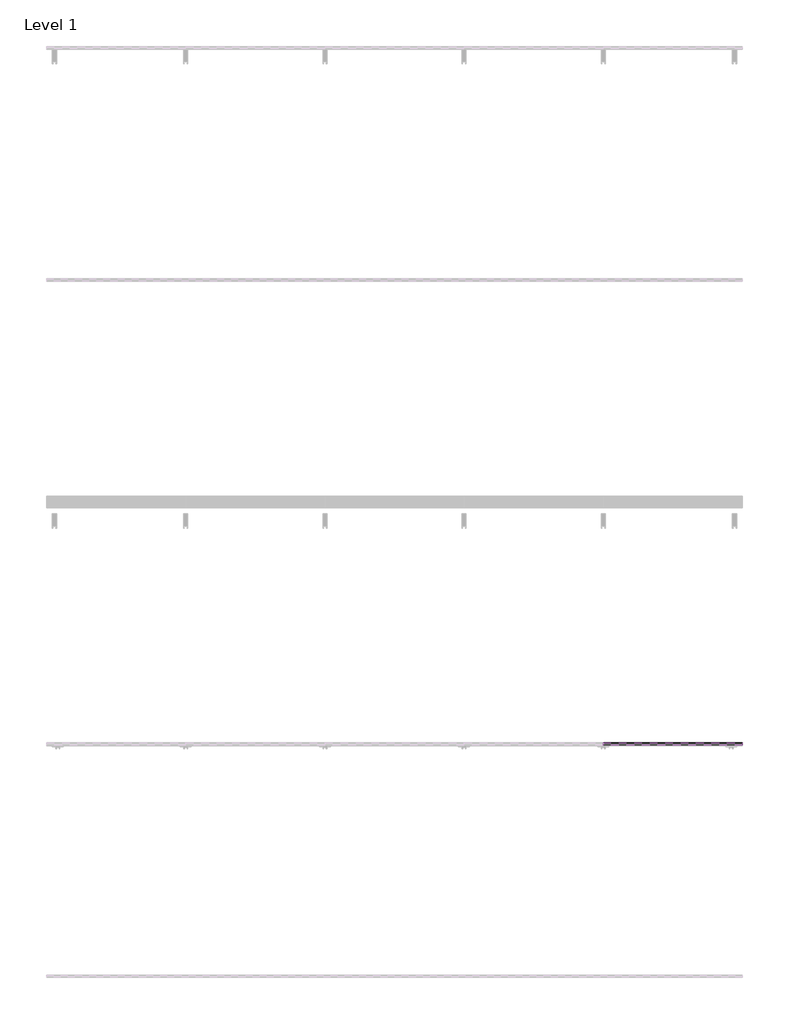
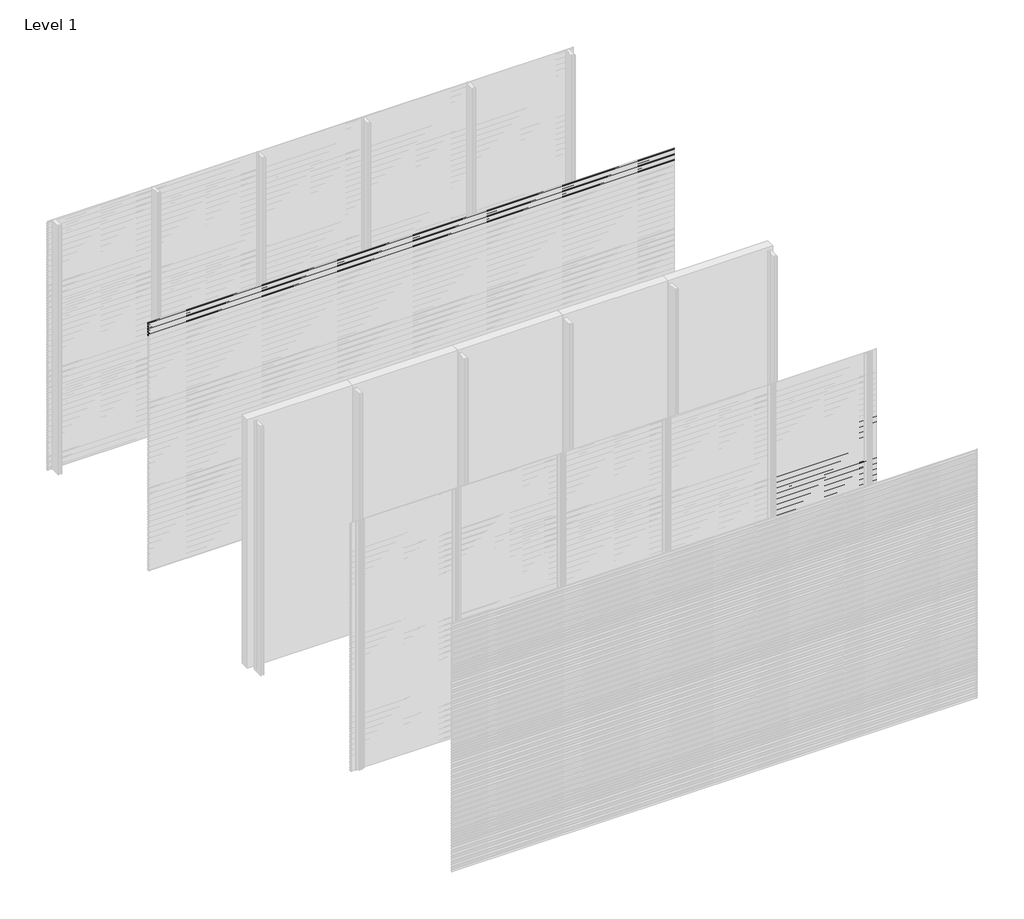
# One storey, part 10 of 77: 72 proxies.
"""IFC4 building model written with IfcOpenShell, lengths in millimetres."""

from ifc_helpers import new_model, si_unit, frame, origin, place, context, project, spatial, polyline, outline, extrude, element, save

model = new_model("IFC4")

# Units and contexts
model_context = context("Model", 3, world=origin())
ifc_project = project(units=[si_unit("LENGTHUNIT", "METRE", prefix="MILLI")], contexts=[model_context])

# Site, building, storey
site = spatial("IfcSite", under=ifc_project)
building = spatial("IfcBuilding", under=site)
storey = spatial("IfcBuildingStorey", under=building, Name="Level 1", Elevation=0.0)

# Proxies
placement = place(None, origin())
element("IfcBuildingElementProxy", 1, Name="Wall Sweeps", at=placement, inside=storey, context=model_context, shape_type="SweptSolid", body=[
    extrude(outline(polyline([(-49978.6, 2972.5359887), (-49998.0, 2983.7366691), (-49998.0, 2997.0), (-49997.0, 2997.0), (-49997.0, 2984.3191057), (-49977.6, 2973.1185105), (-49977.6, 2959.5185105), (-49978.6, 2961.0953129), (-49978.6, 2966.9032062), (-49995.9773817, 2958.8), (-49996.4, 2959.7063078), (-49978.6, 2968.0065841), (-49978.6, 2972.5359887)])), frame((0.0, 0.0, 0.0), z_axis=(1.0, 0.0, 0.0), x_axis=(0.0, 1.0, 0.0)), (0.0, 0.0, 1.0), 6000.0),
])
element("IfcBuildingElementProxy", 2, Name="Wall Sweeps", at=placement, inside=storey, context=model_context, shape_type="SweptSolid", body=[
    extrude(outline(polyline([(-49978.6, 2939.2359887), (-49998.0, 2950.4366691), (-49998.0, 2963.7), (-49997.0, 2963.7), (-49997.0, 2951.0191057), (-49977.6, 2939.8185105), (-49977.6, 2926.2185105), (-49978.6, 2927.7953129), (-49978.6, 2933.6032062), (-49995.9773817, 2925.5), (-49996.4, 2926.4063078), (-49978.6, 2934.7065841), (-49978.6, 2939.2359887)])), frame((0.0, 0.0, 0.0), z_axis=(1.0, 0.0, 0.0), x_axis=(0.0, 1.0, 0.0)), (0.0, 0.0, 1.0), 6000.0),
])
element("IfcBuildingElementProxy", 3, Name="Wall Sweeps", at=placement, inside=storey, context=model_context, shape_type="SweptSolid", body=[
    extrude(outline(polyline([(-49978.6, 2905.9359887), (-49998.0, 2917.1366691), (-49998.0, 2930.4), (-49997.0, 2930.4), (-49997.0, 2917.7191057), (-49977.6, 2906.5185105), (-49977.6, 2892.9185105), (-49978.6, 2894.4953129), (-49978.6, 2900.3032062), (-49995.9773817, 2892.2), (-49996.4, 2893.1063078), (-49978.6, 2901.4065841), (-49978.6, 2905.9359887)])), frame((0.0, 0.0, 0.0), z_axis=(1.0, 0.0, 0.0), x_axis=(0.0, 1.0, 0.0)), (0.0, 0.0, 1.0), 6000.0),
])
element("IfcBuildingElementProxy", 4, Name="Wall Sweeps", at=placement, inside=storey, context=model_context, shape_type="SweptSolid", body=[
    extrude(outline(polyline([(-49978.6, 2872.6359887), (-49998.0, 2883.8366691), (-49998.0, 2897.1), (-49997.0, 2897.1), (-49997.0, 2884.4191057), (-49977.6, 2873.2185105), (-49977.6, 2859.6185105), (-49978.6, 2861.1953129), (-49978.6, 2867.0032062), (-49995.9773817, 2858.9), (-49996.4, 2859.8063078), (-49978.6, 2868.1065841), (-49978.6, 2872.6359887)])), frame((0.0, 0.0, 0.0), z_axis=(1.0, 0.0, 0.0), x_axis=(0.0, 1.0, 0.0)), (0.0, 0.0, 1.0), 6000.0),
])
element("IfcBuildingElementProxy", 5, Name="Wall Sweeps", at=placement, inside=storey, context=model_context, shape_type="SweptSolid", body=[
    extrude(outline(polyline([(-49978.6, 2839.3359887), (-49998.0, 2850.5366691), (-49998.0, 2863.8), (-49997.0, 2863.8), (-49997.0, 2851.1191057), (-49977.6, 2839.9185105), (-49977.6, 2826.3185105), (-49978.6, 2827.8953129), (-49978.6, 2833.7032062), (-49995.9773817, 2825.6), (-49996.4, 2826.5063078), (-49978.6, 2834.8065841), (-49978.6, 2839.3359887)])), frame((0.0, 0.0, 0.0), z_axis=(1.0, 0.0, 0.0), x_axis=(0.0, 1.0, 0.0)), (0.0, 0.0, 1.0), 6000.0),
])
element("IfcBuildingElementProxy", 6, Name="Wall Sweeps", at=placement, inside=storey, context=model_context, shape_type="SweptSolid", body=[
    extrude(outline(polyline([(-53978.6, 2206.6359887), (-53998.0, 2217.8366691), (-53998.0, 2231.1), (-53997.0, 2231.1), (-53997.0, 2218.4191057), (-53977.6, 2207.2185105), (-53977.6, 2193.6185105), (-53978.6, 2195.1953129), (-53978.6, 2201.0032062), (-53995.9773817, 2192.9), (-53996.4, 2193.8063078), (-53978.6, 2202.1065841), (-53978.6, 2206.6359887)])), frame((4800.0, 0.0, 0.0), z_axis=(1.0, 0.0, 0.0), x_axis=(0.0, 1.0, 0.0)), (0.0, 0.0, 1.0), 1200.0),
])
element("IfcBuildingElementProxy", 7, Name="Wall Sweeps", at=placement, inside=storey, context=model_context, shape_type="SweptSolid", body=[
    extrude(outline(polyline([(-53978.6, 2173.3359887), (-53998.0, 2184.5366691), (-53998.0, 2197.8), (-53997.0, 2197.8), (-53997.0, 2185.1191057), (-53977.6, 2173.9185105), (-53977.6, 2160.3185105), (-53978.6, 2161.8953129), (-53978.6, 2167.7032062), (-53995.9773817, 2159.6), (-53996.4, 2160.5063078), (-53978.6, 2168.8065841), (-53978.6, 2173.3359887)])), frame((4800.0, 0.0, 0.0), z_axis=(1.0, 0.0, 0.0), x_axis=(0.0, 1.0, 0.0)), (0.0, 0.0, 1.0), 1200.0),
])
element("IfcBuildingElementProxy", 8, Name="Wall Sweeps", at=placement, inside=storey, context=model_context, shape_type="SweptSolid", body=[
    extrude(outline(polyline([(-53978.6, 2140.0359887), (-53998.0, 2151.2366691), (-53998.0, 2164.5), (-53997.0, 2164.5), (-53997.0, 2151.8191057), (-53977.6, 2140.6185105), (-53977.6, 2127.0185105), (-53978.6, 2128.5953129), (-53978.6, 2134.4032062), (-53995.9773817, 2126.3), (-53996.4, 2127.2063078), (-53978.6, 2135.5065841), (-53978.6, 2140.0359887)])), frame((4800.0, 0.0, 0.0), z_axis=(1.0, 0.0, 0.0), x_axis=(0.0, 1.0, 0.0)), (0.0, 0.0, 1.0), 1200.0),
])
element("IfcBuildingElementProxy", 9, Name="Wall Sweeps", at=placement, inside=storey, context=model_context, shape_type="SweptSolid", body=[
    extrude(outline(polyline([(-53978.6, 2106.7359887), (-53998.0, 2117.9366691), (-53998.0, 2131.2), (-53997.0, 2131.2), (-53997.0, 2118.5191057), (-53977.6, 2107.3185105), (-53977.6, 2093.7185105), (-53978.6, 2095.2953129), (-53978.6, 2101.1032062), (-53995.9773817, 2093.0), (-53996.4, 2093.9063078), (-53978.6, 2102.2065841), (-53978.6, 2106.7359887)])), frame((4800.0, 0.0, 0.0), z_axis=(1.0, 0.0, 0.0), x_axis=(0.0, 1.0, 0.0)), (0.0, 0.0, 1.0), 1200.0),
])
element("IfcBuildingElementProxy", 10, Name="Wall Sweeps", at=placement, inside=storey, context=model_context, shape_type="SweptSolid", body=[
    extrude(outline(polyline([(-53978.6, 2073.4359887), (-53998.0, 2084.6366691), (-53998.0, 2097.9), (-53997.0, 2097.9), (-53997.0, 2085.2191057), (-53977.6, 2074.0185105), (-53977.6, 2060.4185105), (-53978.6, 2061.9953129), (-53978.6, 2067.8032062), (-53995.9773817, 2059.7), (-53996.4, 2060.6063078), (-53978.6, 2068.9065841), (-53978.6, 2073.4359887)])), frame((4800.0, 0.0, 0.0), z_axis=(1.0, 0.0, 0.0), x_axis=(0.0, 1.0, 0.0)), (0.0, 0.0, 1.0), 1200.0),
])
element("IfcBuildingElementProxy", 11, Name="Wall Sweeps", at=placement, inside=storey, context=model_context, shape_type="SweptSolid", body=[
    extrude(outline(polyline([(-53978.6, 2040.1359887), (-53998.0, 2051.3366691), (-53998.0, 2064.6), (-53997.0, 2064.6), (-53997.0, 2051.9191057), (-53977.6, 2040.7185105), (-53977.6, 2027.1185105), (-53978.6, 2028.6953129), (-53978.6, 2034.5032062), (-53995.9773817, 2026.4), (-53996.4, 2027.3063078), (-53978.6, 2035.6065841), (-53978.6, 2040.1359887)])), frame((4800.0, 0.0, 0.0), z_axis=(1.0, 0.0, 0.0), x_axis=(0.0, 1.0, 0.0)), (0.0, 0.0, 1.0), 1200.0),
])
element("IfcBuildingElementProxy", 12, Name="Wall Sweeps", at=placement, inside=storey, context=model_context, shape_type="SweptSolid", body=[
    extrude(outline(polyline([(-53978.6, 2006.8359887), (-53998.0, 2018.0366691), (-53998.0, 2031.3), (-53997.0, 2031.3), (-53997.0, 2018.6191057), (-53977.6, 2007.4185105), (-53977.6, 1993.8185105), (-53978.6, 1995.3953129), (-53978.6, 2001.2032062), (-53995.9773817, 1993.1), (-53996.4, 1994.0063078), (-53978.6, 2002.3065841), (-53978.6, 2006.8359887)])), frame((4800.0, 0.0, 0.0), z_axis=(1.0, 0.0, 0.0), x_axis=(0.0, 1.0, 0.0)), (0.0, 0.0, 1.0), 1200.0),
])
element("IfcBuildingElementProxy", 13, Name="Wall Sweeps", at=placement, inside=storey, context=model_context, shape_type="SweptSolid", body=[
    extrude(outline(polyline([(-53978.6, 1973.5359887), (-53998.0, 1984.7366691), (-53998.0, 1998.0), (-53997.0, 1998.0), (-53997.0, 1985.3191057), (-53977.6, 1974.1185105), (-53977.6, 1960.5185105), (-53978.6, 1962.0953129), (-53978.6, 1967.9032062), (-53995.9773817, 1959.8), (-53996.4, 1960.7063078), (-53978.6, 1969.0065841), (-53978.6, 1973.5359887)])), frame((4800.0, 0.0, 0.0), z_axis=(1.0, 0.0, 0.0), x_axis=(0.0, 1.0, 0.0)), (0.0, 0.0, 1.0), 1200.0),
])
element("IfcBuildingElementProxy", 14, Name="Wall Sweeps", at=placement, inside=storey, context=model_context, shape_type="SweptSolid", body=[
    extrude(outline(polyline([(-53978.6, 1940.2359887), (-53998.0, 1951.4366691), (-53998.0, 1964.7), (-53997.0, 1964.7), (-53997.0, 1952.0191057), (-53977.6, 1940.8185105), (-53977.6, 1927.2185105), (-53978.6, 1928.7953129), (-53978.6, 1934.6032062), (-53995.9773817, 1926.5), (-53996.4, 1927.4063078), (-53978.6, 1935.7065841), (-53978.6, 1940.2359887)])), frame((4800.0, 0.0, 0.0), z_axis=(1.0, 0.0, 0.0), x_axis=(0.0, 1.0, 0.0)), (0.0, 0.0, 1.0), 1200.0),
])
element("IfcBuildingElementProxy", 15, Name="Wall Sweeps", at=placement, inside=storey, context=model_context, shape_type="SweptSolid", body=[
    extrude(outline(polyline([(-53978.6, 1906.9359887), (-53998.0, 1918.1366691), (-53998.0, 1931.4), (-53997.0, 1931.4), (-53997.0, 1918.7191057), (-53977.6, 1907.5185105), (-53977.6, 1893.9185105), (-53978.6, 1895.4953129), (-53978.6, 1901.3032062), (-53995.9773817, 1893.2), (-53996.4, 1894.1063078), (-53978.6, 1902.4065841), (-53978.6, 1906.9359887)])), frame((4800.0, 0.0, 0.0), z_axis=(1.0, 0.0, 0.0), x_axis=(0.0, 1.0, 0.0)), (0.0, 0.0, 1.0), 1200.0),
])
element("IfcBuildingElementProxy", 16, Name="Wall Sweeps", at=placement, inside=storey, context=model_context, shape_type="SweptSolid", body=[
    extrude(outline(polyline([(-53978.6, 1873.6359887), (-53998.0, 1884.8366691), (-53998.0, 1898.1), (-53997.0, 1898.1), (-53997.0, 1885.4191057), (-53977.6, 1874.2185105), (-53977.6, 1860.6185105), (-53978.6, 1862.1953129), (-53978.6, 1868.0032062), (-53995.9773817, 1859.9), (-53996.4, 1860.8063078), (-53978.6, 1869.1065841), (-53978.6, 1873.6359887)])), frame((4800.0, 0.0, 0.0), z_axis=(1.0, 0.0, 0.0), x_axis=(0.0, 1.0, 0.0)), (0.0, 0.0, 1.0), 1200.0),
])
element("IfcBuildingElementProxy", 17, Name="Wall Sweeps", at=placement, inside=storey, context=model_context, shape_type="SweptSolid", body=[
    extrude(outline(polyline([(-53978.6, 1840.3359887), (-53998.0, 1851.5366691), (-53998.0, 1864.8), (-53997.0, 1864.8), (-53997.0, 1852.1191057), (-53977.6, 1840.9185105), (-53977.6, 1827.3185105), (-53978.6, 1828.8953129), (-53978.6, 1834.7032062), (-53995.9773817, 1826.6), (-53996.4, 1827.5063078), (-53978.6, 1835.8065841), (-53978.6, 1840.3359887)])), frame((4800.0, 0.0, 0.0), z_axis=(1.0, 0.0, 0.0), x_axis=(0.0, 1.0, 0.0)), (0.0, 0.0, 1.0), 1200.0),
])
element("IfcBuildingElementProxy", 18, Name="Wall Sweeps", at=placement, inside=storey, context=model_context, shape_type="SweptSolid", body=[
    extrude(outline(polyline([(-53978.6, 1807.0359887), (-53998.0, 1818.2366691), (-53998.0, 1831.5), (-53997.0, 1831.5), (-53997.0, 1818.8191057), (-53977.6, 1807.6185105), (-53977.6, 1794.0185105), (-53978.6, 1795.5953129), (-53978.6, 1801.4032062), (-53995.9773817, 1793.3), (-53996.4, 1794.2063078), (-53978.6, 1802.5065841), (-53978.6, 1807.0359887)])), frame((4800.0, 0.0, 0.0), z_axis=(1.0, 0.0, 0.0), x_axis=(0.0, 1.0, 0.0)), (0.0, 0.0, 1.0), 1200.0),
])
element("IfcBuildingElementProxy", 19, Name="Wall Sweeps", at=placement, inside=storey, context=model_context, shape_type="SweptSolid", body=[
    extrude(outline(polyline([(-53978.6, 1773.7359887), (-53998.0, 1784.9366691), (-53998.0, 1798.2), (-53997.0, 1798.2), (-53997.0, 1785.5191057), (-53977.6, 1774.3185105), (-53977.6, 1760.7185105), (-53978.6, 1762.2953129), (-53978.6, 1768.1032062), (-53995.9773817, 1760.0), (-53996.4, 1760.9063078), (-53978.6, 1769.2065841), (-53978.6, 1773.7359887)])), frame((4800.0, 0.0, 0.0), z_axis=(1.0, 0.0, 0.0), x_axis=(0.0, 1.0, 0.0)), (0.0, 0.0, 1.0), 1200.0),
])
element("IfcBuildingElementProxy", 20, Name="Wall Sweeps", at=placement, inside=storey, context=model_context, shape_type="SweptSolid", body=[
    extrude(outline(polyline([(-53978.6, 1740.4359887), (-53998.0, 1751.6366691), (-53998.0, 1764.9), (-53997.0, 1764.9), (-53997.0, 1752.2191057), (-53977.6, 1741.0185105), (-53977.6, 1727.4185105), (-53978.6, 1728.9953129), (-53978.6, 1734.8032062), (-53995.9773817, 1726.7), (-53996.4, 1727.6063078), (-53978.6, 1735.9065841), (-53978.6, 1740.4359887)])), frame((4800.0, 0.0, 0.0), z_axis=(1.0, 0.0, 0.0), x_axis=(0.0, 1.0, 0.0)), (0.0, 0.0, 1.0), 1200.0),
])
element("IfcBuildingElementProxy", 21, Name="Wall Sweeps", at=placement, inside=storey, context=model_context, shape_type="SweptSolid", body=[
    extrude(outline(polyline([(-53978.6, 1707.1359887), (-53998.0, 1718.3366691), (-53998.0, 1731.6), (-53997.0, 1731.6), (-53997.0, 1718.9191057), (-53977.6, 1707.7185105), (-53977.6, 1694.1185105), (-53978.6, 1695.6953129), (-53978.6, 1701.5032062), (-53995.9773817, 1693.4), (-53996.4, 1694.3063078), (-53978.6, 1702.6065841), (-53978.6, 1707.1359887)])), frame((4800.0, 0.0, 0.0), z_axis=(1.0, 0.0, 0.0), x_axis=(0.0, 1.0, 0.0)), (0.0, 0.0, 1.0), 1200.0),
])
element("IfcBuildingElementProxy", 22, Name="Wall Sweeps", at=placement, inside=storey, context=model_context, shape_type="SweptSolid", body=[
    extrude(outline(polyline([(-53978.6, 1673.8359887), (-53998.0, 1685.0366691), (-53998.0, 1698.3), (-53997.0, 1698.3), (-53997.0, 1685.6191057), (-53977.6, 1674.4185105), (-53977.6, 1660.8185105), (-53978.6, 1662.3953129), (-53978.6, 1668.2032062), (-53995.9773817, 1660.1), (-53996.4, 1661.0063078), (-53978.6, 1669.3065841), (-53978.6, 1673.8359887)])), frame((4800.0, 0.0, 0.0), z_axis=(1.0, 0.0, 0.0), x_axis=(0.0, 1.0, 0.0)), (0.0, 0.0, 1.0), 1200.0),
])
element("IfcBuildingElementProxy", 23, Name="Wall Sweeps", at=placement, inside=storey, context=model_context, shape_type="SweptSolid", body=[
    extrude(outline(polyline([(-53978.6, 1640.5359887), (-53998.0, 1651.7366691), (-53998.0, 1665.0), (-53997.0, 1665.0), (-53997.0, 1652.3191057), (-53977.6, 1641.1185105), (-53977.6, 1627.5185105), (-53978.6, 1629.0953129), (-53978.6, 1634.9032062), (-53995.9773817, 1626.8), (-53996.4, 1627.7063078), (-53978.6, 1636.0065841), (-53978.6, 1640.5359887)])), frame((4800.0, 0.0, 0.0), z_axis=(1.0, 0.0, 0.0), x_axis=(0.0, 1.0, 0.0)), (0.0, 0.0, 1.0), 1200.0),
])
element("IfcBuildingElementProxy", 24, Name="Wall Sweeps", at=placement, inside=storey, context=model_context, shape_type="SweptSolid", body=[
    extrude(outline(polyline([(-53978.6, 1607.2359887), (-53998.0, 1618.4366691), (-53998.0, 1631.7), (-53997.0, 1631.7), (-53997.0, 1619.0191057), (-53977.6, 1607.8185105), (-53977.6, 1594.2185105), (-53978.6, 1595.7953129), (-53978.6, 1601.6032062), (-53995.9773817, 1593.5), (-53996.4, 1594.4063078), (-53978.6, 1602.7065841), (-53978.6, 1607.2359887)])), frame((4800.0, 0.0, 0.0), z_axis=(1.0, 0.0, 0.0), x_axis=(0.0, 1.0, 0.0)), (0.0, 0.0, 1.0), 1200.0),
])
element("IfcBuildingElementProxy", 25, Name="Wall Sweeps", at=placement, inside=storey, context=model_context, shape_type="SweptSolid", body=[
    extrude(outline(polyline([(-53978.6, 1573.9359887), (-53998.0, 1585.1366691), (-53998.0, 1598.4), (-53997.0, 1598.4), (-53997.0, 1585.7191057), (-53977.6, 1574.5185105), (-53977.6, 1560.9185105), (-53978.6, 1562.4953129), (-53978.6, 1568.3032062), (-53995.9773817, 1560.2), (-53996.4, 1561.1063078), (-53978.6, 1569.4065841), (-53978.6, 1573.9359887)])), frame((4800.0, 0.0, 0.0), z_axis=(1.0, 0.0, 0.0), x_axis=(0.0, 1.0, 0.0)), (0.0, 0.0, 1.0), 1200.0),
])
element("IfcBuildingElementProxy", 26, Name="Wall Sweeps", at=placement, inside=storey, context=model_context, shape_type="SweptSolid", body=[
    extrude(outline(polyline([(-53978.6, 1540.6359887), (-53998.0, 1551.8366691), (-53998.0, 1565.1), (-53997.0, 1565.1), (-53997.0, 1552.4191057), (-53977.6, 1541.2185105), (-53977.6, 1527.6185105), (-53978.6, 1529.1953129), (-53978.6, 1535.0032062), (-53995.9773817, 1526.9), (-53996.4, 1527.8063078), (-53978.6, 1536.1065841), (-53978.6, 1540.6359887)])), frame((4800.0, 0.0, 0.0), z_axis=(1.0, 0.0, 0.0), x_axis=(0.0, 1.0, 0.0)), (0.0, 0.0, 1.0), 1200.0),
])
element("IfcBuildingElementProxy", 27, Name="Wall Sweeps", at=placement, inside=storey, context=model_context, shape_type="SweptSolid", body=[
    extrude(outline(polyline([(-53978.6, 1507.3359887), (-53998.0, 1518.5366691), (-53998.0, 1531.8), (-53997.0, 1531.8), (-53997.0, 1519.1191057), (-53977.6, 1507.9185105), (-53977.6, 1494.3185105), (-53978.6, 1495.8953129), (-53978.6, 1501.7032062), (-53995.9773817, 1493.6), (-53996.4, 1494.5063078), (-53978.6, 1502.8065841), (-53978.6, 1507.3359887)])), frame((4800.0, 0.0, 0.0), z_axis=(1.0, 0.0, 0.0), x_axis=(0.0, 1.0, 0.0)), (0.0, 0.0, 1.0), 1200.0),
])
element("IfcBuildingElementProxy", 28, Name="Wall Sweeps", at=placement, inside=storey, context=model_context, shape_type="SweptSolid", body=[
    extrude(outline(polyline([(-53978.6, 1474.0359887), (-53998.0, 1485.2366691), (-53998.0, 1498.5), (-53997.0, 1498.5), (-53997.0, 1485.8191057), (-53977.6, 1474.6185105), (-53977.6, 1461.0185105), (-53978.6, 1462.5953129), (-53978.6, 1468.4032062), (-53995.9773817, 1460.3), (-53996.4, 1461.2063078), (-53978.6, 1469.5065841), (-53978.6, 1474.0359887)])), frame((4800.0, 0.0, 0.0), z_axis=(1.0, 0.0, 0.0), x_axis=(0.0, 1.0, 0.0)), (0.0, 0.0, 1.0), 1200.0),
])
element("IfcBuildingElementProxy", 29, Name="Wall Sweeps", at=placement, inside=storey, context=model_context, shape_type="SweptSolid", body=[
    extrude(outline(polyline([(-53978.6, 1440.7359887), (-53998.0, 1451.9366691), (-53998.0, 1465.2), (-53997.0, 1465.2), (-53997.0, 1452.5191057), (-53977.6, 1441.3185105), (-53977.6, 1427.7185105), (-53978.6, 1429.2953129), (-53978.6, 1435.1032062), (-53995.9773817, 1427.0), (-53996.4, 1427.9063078), (-53978.6, 1436.2065841), (-53978.6, 1440.7359887)])), frame((4800.0, 0.0, 0.0), z_axis=(1.0, 0.0, 0.0), x_axis=(0.0, 1.0, 0.0)), (0.0, 0.0, 1.0), 1200.0),
])
element("IfcBuildingElementProxy", 30, Name="Wall Sweeps", at=placement, inside=storey, context=model_context, shape_type="SweptSolid", body=[
    extrude(outline(polyline([(-53978.6, 1407.4359887), (-53998.0, 1418.6366691), (-53998.0, 1431.9), (-53997.0, 1431.9), (-53997.0, 1419.2191057), (-53977.6, 1408.0185105), (-53977.6, 1394.4185105), (-53978.6, 1395.9953129), (-53978.6, 1401.8032062), (-53995.9773817, 1393.7), (-53996.4, 1394.6063078), (-53978.6, 1402.9065841), (-53978.6, 1407.4359887)])), frame((4800.0, 0.0, 0.0), z_axis=(1.0, 0.0, 0.0), x_axis=(0.0, 1.0, 0.0)), (0.0, 0.0, 1.0), 1200.0),
])
element("IfcBuildingElementProxy", 31, Name="Wall Sweeps", at=placement, inside=storey, context=model_context, shape_type="SweptSolid", body=[
    extrude(outline(polyline([(-53978.6, 1374.1359887), (-53998.0, 1385.3366691), (-53998.0, 1398.6), (-53997.0, 1398.6), (-53997.0, 1385.9191057), (-53977.6, 1374.7185105), (-53977.6, 1361.1185105), (-53978.6, 1362.6953129), (-53978.6, 1368.5032062), (-53995.9773817, 1360.4), (-53996.4, 1361.3063078), (-53978.6, 1369.6065841), (-53978.6, 1374.1359887)])), frame((4800.0, 0.0, 0.0), z_axis=(1.0, 0.0, 0.0), x_axis=(0.0, 1.0, 0.0)), (0.0, 0.0, 1.0), 1200.0),
])
element("IfcBuildingElementProxy", 32, Name="Wall Sweeps", at=placement, inside=storey, context=model_context, shape_type="SweptSolid", body=[
    extrude(outline(polyline([(-53978.6, 1340.8359887), (-53998.0, 1352.0366691), (-53998.0, 1365.3), (-53997.0, 1365.3), (-53997.0, 1352.6191057), (-53977.6, 1341.4185105), (-53977.6, 1327.8185105), (-53978.6, 1329.3953129), (-53978.6, 1335.2032062), (-53995.9773817, 1327.1), (-53996.4, 1328.0063078), (-53978.6, 1336.3065841), (-53978.6, 1340.8359887)])), frame((4800.0, 0.0, 0.0), z_axis=(1.0, 0.0, 0.0), x_axis=(0.0, 1.0, 0.0)), (0.0, 0.0, 1.0), 1200.0),
])
element("IfcBuildingElementProxy", 33, Name="Wall Sweeps", at=placement, inside=storey, context=model_context, shape_type="SweptSolid", body=[
    extrude(outline(polyline([(-53978.6, 1307.5359887), (-53998.0, 1318.7366691), (-53998.0, 1332.0), (-53997.0, 1332.0), (-53997.0, 1319.3191057), (-53977.6, 1308.1185105), (-53977.6, 1294.5185105), (-53978.6, 1296.0953129), (-53978.6, 1301.9032062), (-53995.9773817, 1293.8), (-53996.4, 1294.7063078), (-53978.6, 1303.0065841), (-53978.6, 1307.5359887)])), frame((4800.0, 0.0, 0.0), z_axis=(1.0, 0.0, 0.0), x_axis=(0.0, 1.0, 0.0)), (0.0, 0.0, 1.0), 1200.0),
])
element("IfcBuildingElementProxy", 34, Name="Wall Sweeps", at=placement, inside=storey, context=model_context, shape_type="SweptSolid", body=[
    extrude(outline(polyline([(-53978.6, 1274.2359887), (-53998.0, 1285.4366691), (-53998.0, 1298.7), (-53997.0, 1298.7), (-53997.0, 1286.0191057), (-53977.6, 1274.8185105), (-53977.6, 1261.2185105), (-53978.6, 1262.7953129), (-53978.6, 1268.6032062), (-53995.9773817, 1260.5), (-53996.4, 1261.4063078), (-53978.6, 1269.7065841), (-53978.6, 1274.2359887)])), frame((4800.0, 0.0, 0.0), z_axis=(1.0, 0.0, 0.0), x_axis=(0.0, 1.0, 0.0)), (0.0, 0.0, 1.0), 1200.0),
])
element("IfcBuildingElementProxy", 35, Name="Wall Sweeps", at=placement, inside=storey, context=model_context, shape_type="SweptSolid", body=[
    extrude(outline(polyline([(-53978.6, 1240.9359887), (-53998.0, 1252.1366691), (-53998.0, 1265.4), (-53997.0, 1265.4), (-53997.0, 1252.7191057), (-53977.6, 1241.5185105), (-53977.6, 1227.9185105), (-53978.6, 1229.4953129), (-53978.6, 1235.3032062), (-53995.9773817, 1227.2), (-53996.4, 1228.1063078), (-53978.6, 1236.4065841), (-53978.6, 1240.9359887)])), frame((4800.0, 0.0, 0.0), z_axis=(1.0, 0.0, 0.0), x_axis=(0.0, 1.0, 0.0)), (0.0, 0.0, 1.0), 1200.0),
])
element("IfcBuildingElementProxy", 36, Name="Wall Sweeps", at=placement, inside=storey, context=model_context, shape_type="SweptSolid", body=[
    extrude(outline(polyline([(-53978.6, 1207.6359887), (-53998.0, 1218.8366691), (-53998.0, 1232.1), (-53997.0, 1232.1), (-53997.0, 1219.4191057), (-53977.6, 1208.2185105), (-53977.6, 1194.6185105), (-53978.6, 1196.1953129), (-53978.6, 1202.0032062), (-53995.9773817, 1193.9), (-53996.4, 1194.8063078), (-53978.6, 1203.1065841), (-53978.6, 1207.6359887)])), frame((4800.0, 0.0, 0.0), z_axis=(1.0, 0.0, 0.0), x_axis=(0.0, 1.0, 0.0)), (0.0, 0.0, 1.0), 1200.0),
])
element("IfcBuildingElementProxy", 37, Name="Wall Sweeps", at=placement, inside=storey, context=model_context, shape_type="SweptSolid", body=[
    extrude(outline(polyline([(-53978.6, 1174.3359887), (-53998.0, 1185.5366691), (-53998.0, 1198.8), (-53997.0, 1198.8), (-53997.0, 1186.1191057), (-53977.6, 1174.9185105), (-53977.6, 1161.3185105), (-53978.6, 1162.8953129), (-53978.6, 1168.7032062), (-53995.9773817, 1160.6), (-53996.4, 1161.5063078), (-53978.6, 1169.8065841), (-53978.6, 1174.3359887)])), frame((4800.0, 0.0, 0.0), z_axis=(1.0, 0.0, 0.0), x_axis=(0.0, 1.0, 0.0)), (0.0, 0.0, 1.0), 1200.0),
])
element("IfcBuildingElementProxy", 38, Name="Wall Sweeps", at=placement, inside=storey, context=model_context, shape_type="SweptSolid", body=[
    extrude(outline(polyline([(-53978.6, 1141.0359887), (-53998.0, 1152.2366691), (-53998.0, 1165.5), (-53997.0, 1165.5), (-53997.0, 1152.8191057), (-53977.6, 1141.6185105), (-53977.6, 1128.0185105), (-53978.6, 1129.5953129), (-53978.6, 1135.4032062), (-53995.9773817, 1127.3), (-53996.4, 1128.2063078), (-53978.6, 1136.5065841), (-53978.6, 1141.0359887)])), frame((4800.0, 0.0, 0.0), z_axis=(1.0, 0.0, 0.0), x_axis=(0.0, 1.0, 0.0)), (0.0, 0.0, 1.0), 1200.0),
])
element("IfcBuildingElementProxy", 39, Name="Wall Sweeps", at=placement, inside=storey, context=model_context, shape_type="SweptSolid", body=[
    extrude(outline(polyline([(-53978.6, 1107.7359887), (-53998.0, 1118.9366691), (-53998.0, 1132.2), (-53997.0, 1132.2), (-53997.0, 1119.5191057), (-53977.6, 1108.3185105), (-53977.6, 1094.7185105), (-53978.6, 1096.2953129), (-53978.6, 1102.1032062), (-53995.9773817, 1094.0), (-53996.4, 1094.9063078), (-53978.6, 1103.2065841), (-53978.6, 1107.7359887)])), frame((4800.0, 0.0, 0.0), z_axis=(1.0, 0.0, 0.0), x_axis=(0.0, 1.0, 0.0)), (0.0, 0.0, 1.0), 1200.0),
])
element("IfcBuildingElementProxy", 40, Name="Wall Sweeps", at=placement, inside=storey, context=model_context, shape_type="SweptSolid", body=[
    extrude(outline(polyline([(-53978.6, 1074.4359887), (-53998.0, 1085.6366691), (-53998.0, 1098.9), (-53997.0, 1098.9), (-53997.0, 1086.2191057), (-53977.6, 1075.0185105), (-53977.6, 1061.4185105), (-53978.6, 1062.9953129), (-53978.6, 1068.8032062), (-53995.9773817, 1060.7), (-53996.4, 1061.6063078), (-53978.6, 1069.9065841), (-53978.6, 1074.4359887)])), frame((4800.0, 0.0, 0.0), z_axis=(1.0, 0.0, 0.0), x_axis=(0.0, 1.0, 0.0)), (0.0, 0.0, 1.0), 1200.0),
])
element("IfcBuildingElementProxy", 41, Name="Wall Sweeps", at=placement, inside=storey, context=model_context, shape_type="SweptSolid", body=[
    extrude(outline(polyline([(-53978.6, 1041.1359887), (-53998.0, 1052.3366691), (-53998.0, 1065.6), (-53997.0, 1065.6), (-53997.0, 1052.9191057), (-53977.6, 1041.7185105), (-53977.6, 1028.1185105), (-53978.6, 1029.6953129), (-53978.6, 1035.5032062), (-53995.9773817, 1027.4), (-53996.4, 1028.3063078), (-53978.6, 1036.6065841), (-53978.6, 1041.1359887)])), frame((4800.0, 0.0, 0.0), z_axis=(1.0, 0.0, 0.0), x_axis=(0.0, 1.0, 0.0)), (0.0, 0.0, 1.0), 1200.0),
])
element("IfcBuildingElementProxy", 42, Name="Wall Sweeps", at=placement, inside=storey, context=model_context, shape_type="SweptSolid", body=[
    extrude(outline(polyline([(-53978.6, 1007.8359887), (-53998.0, 1019.0366691), (-53998.0, 1032.3), (-53997.0, 1032.3), (-53997.0, 1019.6191057), (-53977.6, 1008.4185105), (-53977.6, 994.8185105), (-53978.6, 996.3953129), (-53978.6, 1002.2032062), (-53995.9773817, 994.1), (-53996.4, 995.0063078), (-53978.6, 1003.3065841), (-53978.6, 1007.8359887)])), frame((4800.0, 0.0, 0.0), z_axis=(1.0, 0.0, 0.0), x_axis=(0.0, 1.0, 0.0)), (0.0, 0.0, 1.0), 1200.0),
])
element("IfcBuildingElementProxy", 43, Name="Wall Sweeps", at=placement, inside=storey, context=model_context, shape_type="SweptSolid", body=[
    extrude(outline(polyline([(-53978.6, 974.5359887), (-53998.0, 985.7366691), (-53998.0, 999.0), (-53997.0, 999.0), (-53997.0, 986.3191057), (-53977.6, 975.1185105), (-53977.6, 961.5185105), (-53978.6, 963.0953129), (-53978.6, 968.9032062), (-53995.9773817, 960.8), (-53996.4, 961.7063078), (-53978.6, 970.0065841), (-53978.6, 974.5359887)])), frame((4800.0, 0.0, 0.0), z_axis=(1.0, 0.0, 0.0), x_axis=(0.0, 1.0, 0.0)), (0.0, 0.0, 1.0), 1200.0),
])
element("IfcBuildingElementProxy", 44, Name="Wall Sweeps", at=placement, inside=storey, context=model_context, shape_type="SweptSolid", body=[
    extrude(outline(polyline([(-53978.6, 941.2359887), (-53998.0, 952.4366691), (-53998.0, 965.7), (-53997.0, 965.7), (-53997.0, 953.0191057), (-53977.6, 941.8185105), (-53977.6, 928.2185105), (-53978.6, 929.7953129), (-53978.6, 935.6032062), (-53995.9773817, 927.5), (-53996.4, 928.4063078), (-53978.6, 936.7065841), (-53978.6, 941.2359887)])), frame((4800.0, 0.0, 0.0), z_axis=(1.0, 0.0, 0.0), x_axis=(0.0, 1.0, 0.0)), (0.0, 0.0, 1.0), 1200.0),
])
element("IfcBuildingElementProxy", 45, Name="Wall Sweeps", at=placement, inside=storey, context=model_context, shape_type="SweptSolid", body=[
    extrude(outline(polyline([(-53978.6, 907.9359887), (-53998.0, 919.1366691), (-53998.0, 932.4), (-53997.0, 932.4), (-53997.0, 919.7191057), (-53977.6, 908.5185105), (-53977.6, 894.9185105), (-53978.6, 896.4953129), (-53978.6, 902.3032062), (-53995.9773817, 894.2), (-53996.4, 895.1063078), (-53978.6, 903.4065841), (-53978.6, 907.9359887)])), frame((4800.0, 0.0, 0.0), z_axis=(1.0, 0.0, 0.0), x_axis=(0.0, 1.0, 0.0)), (0.0, 0.0, 1.0), 1200.0),
])
element("IfcBuildingElementProxy", 46, Name="Wall Sweeps", at=placement, inside=storey, context=model_context, shape_type="SweptSolid", body=[
    extrude(outline(polyline([(-53978.6, 874.6359887), (-53998.0, 885.8366691), (-53998.0, 899.1), (-53997.0, 899.1), (-53997.0, 886.4191057), (-53977.6, 875.2185105), (-53977.6, 861.6185105), (-53978.6, 863.1953129), (-53978.6, 869.0032062), (-53995.9773817, 860.9), (-53996.4, 861.8063078), (-53978.6, 870.1065841), (-53978.6, 874.6359887)])), frame((4800.0, 0.0, 0.0), z_axis=(1.0, 0.0, 0.0), x_axis=(0.0, 1.0, 0.0)), (0.0, 0.0, 1.0), 1200.0),
])
element("IfcBuildingElementProxy", 47, Name="Wall Sweeps", at=placement, inside=storey, context=model_context, shape_type="SweptSolid", body=[
    extrude(outline(polyline([(-53978.6, 841.3359887), (-53998.0, 852.5366691), (-53998.0, 865.8), (-53997.0, 865.8), (-53997.0, 853.1191057), (-53977.6, 841.9185105), (-53977.6, 828.3185105), (-53978.6, 829.8953129), (-53978.6, 835.7032062), (-53995.9773817, 827.6), (-53996.4, 828.5063078), (-53978.6, 836.8065841), (-53978.6, 841.3359887)])), frame((4800.0, 0.0, 0.0), z_axis=(1.0, 0.0, 0.0), x_axis=(0.0, 1.0, 0.0)), (0.0, 0.0, 1.0), 1200.0),
])
element("IfcBuildingElementProxy", 48, Name="Wall Sweeps", at=placement, inside=storey, context=model_context, shape_type="SweptSolid", body=[
    extrude(outline(polyline([(-53978.6, 808.0359887), (-53998.0, 819.2366691), (-53998.0, 832.5), (-53997.0, 832.5), (-53997.0, 819.8191057), (-53977.6, 808.6185105), (-53977.6, 795.0185105), (-53978.6, 796.5953129), (-53978.6, 802.4032062), (-53995.9773817, 794.3), (-53996.4, 795.2063078), (-53978.6, 803.5065841), (-53978.6, 808.0359887)])), frame((4800.0, 0.0, 0.0), z_axis=(1.0, 0.0, 0.0), x_axis=(0.0, 1.0, 0.0)), (0.0, 0.0, 1.0), 1200.0),
])
element("IfcBuildingElementProxy", 49, Name="Wall Sweeps", at=placement, inside=storey, context=model_context, shape_type="SweptSolid", body=[
    extrude(outline(polyline([(-53978.6, 774.7359887), (-53998.0, 785.9366691), (-53998.0, 799.2), (-53997.0, 799.2), (-53997.0, 786.5191057), (-53977.6, 775.3185105), (-53977.6, 761.7185105), (-53978.6, 763.2953129), (-53978.6, 769.1032062), (-53995.9773817, 761.0), (-53996.4, 761.9063078), (-53978.6, 770.2065841), (-53978.6, 774.7359887)])), frame((4800.0, 0.0, 0.0), z_axis=(1.0, 0.0, 0.0), x_axis=(0.0, 1.0, 0.0)), (0.0, 0.0, 1.0), 1200.0),
])
element("IfcBuildingElementProxy", 50, Name="Wall Sweeps", at=placement, inside=storey, context=model_context, shape_type="SweptSolid", body=[
    extrude(outline(polyline([(-53978.6, 741.4359887), (-53998.0, 752.6366691), (-53998.0, 765.9), (-53997.0, 765.9), (-53997.0, 753.2191057), (-53977.6, 742.0185105), (-53977.6, 728.4185105), (-53978.6, 729.9953129), (-53978.6, 735.8032062), (-53995.9773817, 727.7), (-53996.4, 728.6063078), (-53978.6, 736.9065841), (-53978.6, 741.4359887)])), frame((4800.0, 0.0, 0.0), z_axis=(1.0, 0.0, 0.0), x_axis=(0.0, 1.0, 0.0)), (0.0, 0.0, 1.0), 1200.0),
])
element("IfcBuildingElementProxy", 51, Name="Wall Sweeps", at=placement, inside=storey, context=model_context, shape_type="SweptSolid", body=[
    extrude(outline(polyline([(-53978.6, 708.1359887), (-53998.0, 719.3366691), (-53998.0, 732.6), (-53997.0, 732.6), (-53997.0, 719.9191057), (-53977.6, 708.7185105), (-53977.6, 695.1185105), (-53978.6, 696.6953129), (-53978.6, 702.5032062), (-53995.9773817, 694.4), (-53996.4, 695.3063078), (-53978.6, 703.6065841), (-53978.6, 708.1359887)])), frame((4800.0, 0.0, 0.0), z_axis=(1.0, 0.0, 0.0), x_axis=(0.0, 1.0, 0.0)), (0.0, 0.0, 1.0), 1200.0),
])
element("IfcBuildingElementProxy", 52, Name="Wall Sweeps", at=placement, inside=storey, context=model_context, shape_type="SweptSolid", body=[
    extrude(outline(polyline([(-53978.6, 674.8359887), (-53998.0, 686.0366691), (-53998.0, 699.3), (-53997.0, 699.3), (-53997.0, 686.6191057), (-53977.6, 675.4185105), (-53977.6, 661.8185105), (-53978.6, 663.3953129), (-53978.6, 669.2032062), (-53995.9773817, 661.1), (-53996.4, 662.0063078), (-53978.6, 670.3065841), (-53978.6, 674.8359887)])), frame((4800.0, 0.0, 0.0), z_axis=(1.0, 0.0, 0.0), x_axis=(0.0, 1.0, 0.0)), (0.0, 0.0, 1.0), 1200.0),
])
element("IfcBuildingElementProxy", 53, Name="Wall Sweeps", at=placement, inside=storey, context=model_context, shape_type="SweptSolid", body=[
    extrude(outline(polyline([(-53978.6, 641.5359887), (-53998.0, 652.7366691), (-53998.0, 666.0), (-53997.0, 666.0), (-53997.0, 653.3191057), (-53977.6, 642.1185105), (-53977.6, 628.5185105), (-53978.6, 630.0953129), (-53978.6, 635.9032062), (-53995.9773817, 627.8), (-53996.4, 628.7063078), (-53978.6, 637.0065841), (-53978.6, 641.5359887)])), frame((4800.0, 0.0, 0.0), z_axis=(1.0, 0.0, 0.0), x_axis=(0.0, 1.0, 0.0)), (0.0, 0.0, 1.0), 1200.0),
])
element("IfcBuildingElementProxy", 54, Name="Wall Sweeps", at=placement, inside=storey, context=model_context, shape_type="SweptSolid", body=[
    extrude(outline(polyline([(-53978.6, 608.2359887), (-53998.0, 619.4366691), (-53998.0, 632.7), (-53997.0, 632.7), (-53997.0, 620.0191057), (-53977.6, 608.8185105), (-53977.6, 595.2185105), (-53978.6, 596.7953129), (-53978.6, 602.6032062), (-53995.9773817, 594.5), (-53996.4, 595.4063078), (-53978.6, 603.7065841), (-53978.6, 608.2359887)])), frame((4800.0, 0.0, 0.0), z_axis=(1.0, 0.0, 0.0), x_axis=(0.0, 1.0, 0.0)), (0.0, 0.0, 1.0), 1200.0),
])
element("IfcBuildingElementProxy", 55, Name="Wall Sweeps", at=placement, inside=storey, context=model_context, shape_type="SweptSolid", body=[
    extrude(outline(polyline([(-53978.6, 574.9359887), (-53998.0, 586.1366691), (-53998.0, 599.4), (-53997.0, 599.4), (-53997.0, 586.7191057), (-53977.6, 575.5185105), (-53977.6, 561.9185105), (-53978.6, 563.4953129), (-53978.6, 569.3032062), (-53995.9773817, 561.2), (-53996.4, 562.1063078), (-53978.6, 570.4065841), (-53978.6, 574.9359887)])), frame((4800.0, 0.0, 0.0), z_axis=(1.0, 0.0, 0.0), x_axis=(0.0, 1.0, 0.0)), (0.0, 0.0, 1.0), 1200.0),
])
element("IfcBuildingElementProxy", 56, Name="Wall Sweeps", at=placement, inside=storey, context=model_context, shape_type="SweptSolid", body=[
    extrude(outline(polyline([(-53978.6, 541.6359887), (-53998.0, 552.8366691), (-53998.0, 566.1), (-53997.0, 566.1), (-53997.0, 553.4191057), (-53977.6, 542.2185105), (-53977.6, 528.6185105), (-53978.6, 530.1953129), (-53978.6, 536.0032062), (-53995.9773817, 527.9), (-53996.4, 528.8063078), (-53978.6, 537.1065841), (-53978.6, 541.6359887)])), frame((4800.0, 0.0, 0.0), z_axis=(1.0, 0.0, 0.0), x_axis=(0.0, 1.0, 0.0)), (0.0, 0.0, 1.0), 1200.0),
])
element("IfcBuildingElementProxy", 57, Name="Wall Sweeps", at=placement, inside=storey, context=model_context, shape_type="SweptSolid", body=[
    extrude(outline(polyline([(-53978.6, 508.3359887), (-53998.0, 519.5366691), (-53998.0, 532.8), (-53997.0, 532.8), (-53997.0, 520.1191057), (-53977.6, 508.9185105), (-53977.6, 495.3185105), (-53978.6, 496.8953129), (-53978.6, 502.7032062), (-53995.9773817, 494.6), (-53996.4, 495.5063078), (-53978.6, 503.8065841), (-53978.6, 508.3359887)])), frame((4800.0, 0.0, 0.0), z_axis=(1.0, 0.0, 0.0), x_axis=(0.0, 1.0, 0.0)), (0.0, 0.0, 1.0), 1200.0),
])
element("IfcBuildingElementProxy", 58, Name="Wall Sweeps", at=placement, inside=storey, context=model_context, shape_type="SweptSolid", body=[
    extrude(outline(polyline([(-53978.6, 475.0359887), (-53998.0, 486.2366691), (-53998.0, 499.5), (-53997.0, 499.5), (-53997.0, 486.8191057), (-53977.6, 475.6185105), (-53977.6, 462.0185105), (-53978.6, 463.5953129), (-53978.6, 469.4032062), (-53995.9773817, 461.3), (-53996.4, 462.2063078), (-53978.6, 470.5065841), (-53978.6, 475.0359887)])), frame((4800.0, 0.0, 0.0), z_axis=(1.0, 0.0, 0.0), x_axis=(0.0, 1.0, 0.0)), (0.0, 0.0, 1.0), 1200.0),
])
element("IfcBuildingElementProxy", 59, Name="Wall Sweeps", at=placement, inside=storey, context=model_context, shape_type="SweptSolid", body=[
    extrude(outline(polyline([(-53978.6, 441.7359887), (-53998.0, 452.9366691), (-53998.0, 466.2), (-53997.0, 466.2), (-53997.0, 453.5191057), (-53977.6, 442.3185105), (-53977.6, 428.7185105), (-53978.6, 430.2953129), (-53978.6, 436.1032062), (-53995.9773817, 428.0), (-53996.4, 428.9063078), (-53978.6, 437.2065841), (-53978.6, 441.7359887)])), frame((4800.0, 0.0, 0.0), z_axis=(1.0, 0.0, 0.0), x_axis=(0.0, 1.0, 0.0)), (0.0, 0.0, 1.0), 1200.0),
])
element("IfcBuildingElementProxy", 60, Name="Wall Sweeps", at=placement, inside=storey, context=model_context, shape_type="SweptSolid", body=[
    extrude(outline(polyline([(-53978.6, 408.4359887), (-53998.0, 419.6366691), (-53998.0, 432.9), (-53997.0, 432.9), (-53997.0, 420.2191057), (-53977.6, 409.0185105), (-53977.6, 395.4185105), (-53978.6, 396.9953129), (-53978.6, 402.8032062), (-53995.9773817, 394.7), (-53996.4, 395.6063078), (-53978.6, 403.9065841), (-53978.6, 408.4359887)])), frame((4800.0, 0.0, 0.0), z_axis=(1.0, 0.0, 0.0), x_axis=(0.0, 1.0, 0.0)), (0.0, 0.0, 1.0), 1200.0),
])
element("IfcBuildingElementProxy", 61, Name="Wall Sweeps", at=placement, inside=storey, context=model_context, shape_type="SweptSolid", body=[
    extrude(outline(polyline([(-53978.6, 375.1359887), (-53998.0, 386.3366691), (-53998.0, 399.6), (-53997.0, 399.6), (-53997.0, 386.9191057), (-53977.6, 375.7185105), (-53977.6, 362.1185105), (-53978.6, 363.6953129), (-53978.6, 369.5032062), (-53995.9773817, 361.4), (-53996.4, 362.3063078), (-53978.6, 370.6065841), (-53978.6, 375.1359887)])), frame((4800.0, 0.0, 0.0), z_axis=(1.0, 0.0, 0.0), x_axis=(0.0, 1.0, 0.0)), (0.0, 0.0, 1.0), 1200.0),
])
element("IfcBuildingElementProxy", 62, Name="Wall Sweeps", at=placement, inside=storey, context=model_context, shape_type="SweptSolid", body=[
    extrude(outline(polyline([(-53978.6, 341.8359887), (-53998.0, 353.0366691), (-53998.0, 366.3), (-53997.0, 366.3), (-53997.0, 353.6191057), (-53977.6, 342.4185105), (-53977.6, 328.8185105), (-53978.6, 330.3953129), (-53978.6, 336.2032062), (-53995.9773817, 328.1), (-53996.4, 329.0063078), (-53978.6, 337.3065841), (-53978.6, 341.8359887)])), frame((4800.0, 0.0, 0.0), z_axis=(1.0, 0.0, 0.0), x_axis=(0.0, 1.0, 0.0)), (0.0, 0.0, 1.0), 1200.0),
])
element("IfcBuildingElementProxy", 63, Name="Wall Sweeps", at=placement, inside=storey, context=model_context, shape_type="SweptSolid", body=[
    extrude(outline(polyline([(-53978.6, 308.5359887), (-53998.0, 319.7366691), (-53998.0, 333.0), (-53997.0, 333.0), (-53997.0, 320.3191057), (-53977.6, 309.1185105), (-53977.6, 295.5185105), (-53978.6, 297.0953129), (-53978.6, 302.9032062), (-53995.9773817, 294.8), (-53996.4, 295.7063078), (-53978.6, 304.0065841), (-53978.6, 308.5359887)])), frame((4800.0, 0.0, 0.0), z_axis=(1.0, 0.0, 0.0), x_axis=(0.0, 1.0, 0.0)), (0.0, 0.0, 1.0), 1200.0),
])
element("IfcBuildingElementProxy", 64, Name="Wall Sweeps", at=placement, inside=storey, context=model_context, shape_type="SweptSolid", body=[
    extrude(outline(polyline([(-53978.6, 275.2359887), (-53998.0, 286.4366691), (-53998.0, 299.7), (-53997.0, 299.7), (-53997.0, 287.0191057), (-53977.6, 275.8185105), (-53977.6, 262.2185105), (-53978.6, 263.7953129), (-53978.6, 269.6032062), (-53995.9773817, 261.5), (-53996.4, 262.4063078), (-53978.6, 270.7065841), (-53978.6, 275.2359887)])), frame((4800.0, 0.0, 0.0), z_axis=(1.0, 0.0, 0.0), x_axis=(0.0, 1.0, 0.0)), (0.0, 0.0, 1.0), 1200.0),
])
element("IfcBuildingElementProxy", 65, Name="Wall Sweeps", at=placement, inside=storey, context=model_context, shape_type="SweptSolid", body=[
    extrude(outline(polyline([(-53978.6, 241.9359887), (-53998.0, 253.1366691), (-53998.0, 266.4), (-53997.0, 266.4), (-53997.0, 253.7191057), (-53977.6, 242.5185105), (-53977.6, 228.9185105), (-53978.6, 230.4953129), (-53978.6, 236.3032062), (-53995.9773817, 228.2), (-53996.4, 229.1063078), (-53978.6, 237.4065841), (-53978.6, 241.9359887)])), frame((4800.0, 0.0, 0.0), z_axis=(1.0, 0.0, 0.0), x_axis=(0.0, 1.0, 0.0)), (0.0, 0.0, 1.0), 1200.0),
])
element("IfcBuildingElementProxy", 66, Name="Wall Sweeps", at=placement, inside=storey, context=model_context, shape_type="SweptSolid", body=[
    extrude(outline(polyline([(-53978.6, 208.6359887), (-53998.0, 219.8366691), (-53998.0, 233.1), (-53997.0, 233.1), (-53997.0, 220.4191057), (-53977.6, 209.2185105), (-53977.6, 195.6185105), (-53978.6, 197.1953129), (-53978.6, 203.0032062), (-53995.9773817, 194.9), (-53996.4, 195.8063078), (-53978.6, 204.1065841), (-53978.6, 208.6359887)])), frame((4800.0, 0.0, 0.0), z_axis=(1.0, 0.0, 0.0), x_axis=(0.0, 1.0, 0.0)), (0.0, 0.0, 1.0), 1200.0),
])
element("IfcBuildingElementProxy", 67, Name="Wall Sweeps", at=placement, inside=storey, context=model_context, shape_type="SweptSolid", body=[
    extrude(outline(polyline([(-53978.6, 175.3359887), (-53998.0, 186.5366691), (-53998.0, 199.8), (-53997.0, 199.8), (-53997.0, 187.1191057), (-53977.6, 175.9185105), (-53977.6, 162.3185105), (-53978.6, 163.8953129), (-53978.6, 169.7032062), (-53995.9773817, 161.6), (-53996.4, 162.5063078), (-53978.6, 170.8065841), (-53978.6, 175.3359887)])), frame((4800.0, 0.0, 0.0), z_axis=(1.0, 0.0, 0.0), x_axis=(0.0, 1.0, 0.0)), (0.0, 0.0, 1.0), 1200.0),
])
element("IfcBuildingElementProxy", 68, Name="Wall Sweeps", at=placement, inside=storey, context=model_context, shape_type="SweptSolid", body=[
    extrude(outline(polyline([(-53978.6, 142.0359887), (-53998.0, 153.2366691), (-53998.0, 166.5), (-53997.0, 166.5), (-53997.0, 153.8191057), (-53977.6, 142.6185105), (-53977.6, 129.0185105), (-53978.6, 130.5953129), (-53978.6, 136.4032062), (-53995.9773817, 128.3), (-53996.4, 129.2063078), (-53978.6, 137.5065841), (-53978.6, 142.0359887)])), frame((4800.0, 0.0, 0.0), z_axis=(1.0, 0.0, 0.0), x_axis=(0.0, 1.0, 0.0)), (0.0, 0.0, 1.0), 1200.0),
])
element("IfcBuildingElementProxy", 69, Name="Wall Sweeps", at=placement, inside=storey, context=model_context, shape_type="SweptSolid", body=[
    extrude(outline(polyline([(-53978.6, 108.7359887), (-53998.0, 119.9366691), (-53998.0, 133.2), (-53997.0, 133.2), (-53997.0, 120.5191057), (-53977.6, 109.3185105), (-53977.6, 95.7185105), (-53978.6, 97.2953129), (-53978.6, 103.1032062), (-53995.9773817, 95.0), (-53996.4, 95.9063078), (-53978.6, 104.2065841), (-53978.6, 108.7359887)])), frame((4800.0, 0.0, 0.0), z_axis=(1.0, 0.0, 0.0), x_axis=(0.0, 1.0, 0.0)), (0.0, 0.0, 1.0), 1200.0),
])
element("IfcBuildingElementProxy", 70, Name="Wall Sweeps", at=placement, inside=storey, context=model_context, shape_type="SweptSolid", body=[
    extrude(outline(polyline([(-53978.6, 75.4359887), (-53998.0, 86.6366691), (-53998.0, 99.9), (-53997.0, 99.9), (-53997.0, 87.2191057), (-53977.6, 76.0185105), (-53977.6, 62.4185105), (-53978.6, 63.9953129), (-53978.6, 69.8032062), (-53995.9773817, 61.7), (-53996.4, 62.6063078), (-53978.6, 70.9065841), (-53978.6, 75.4359887)])), frame((4800.0, 0.0, 0.0), z_axis=(1.0, 0.0, 0.0), x_axis=(0.0, 1.0, 0.0)), (0.0, 0.0, 1.0), 1200.0),
])
element("IfcBuildingElementProxy", 71, Name="Wall Sweeps", at=placement, inside=storey, context=model_context, shape_type="SweptSolid", body=[
    extrude(outline(polyline([(-53978.6, 42.1359887), (-53998.0, 53.3366691), (-53998.0, 66.6), (-53997.0, 66.6), (-53997.0, 53.9191057), (-53977.6, 42.7185105), (-53977.6, 29.1185105), (-53978.6, 30.6953129), (-53978.6, 36.5032062), (-53995.9773817, 28.4), (-53996.4, 29.3063078), (-53978.6, 37.6065841), (-53978.6, 42.1359887)])), frame((4800.0, 0.0, 0.0), z_axis=(1.0, 0.0, 0.0), x_axis=(0.0, 1.0, 0.0)), (0.0, 0.0, 1.0), 1200.0),
])
element("IfcBuildingElementProxy", 72, Name="Wall Sweeps", at=placement, inside=storey, context=model_context, shape_type="SweptSolid", body=[
    extrude(outline(polyline([(-53978.6, 8.8359887), (-53998.0, 20.0366691), (-53998.0, 33.3), (-53997.0, 33.3), (-53997.0, 20.6191057), (-53977.6, 9.4185105), (-53977.6, -4.1814895), (-53978.6, -2.6046871), (-53978.6, 3.2032062), (-53995.9773817, -4.9), (-53996.4, -3.9936922), (-53978.6, 4.3065841), (-53978.6, 8.8359887)])), frame((4800.0, 0.0, 0.0), z_axis=(1.0, 0.0, 0.0), x_axis=(0.0, 1.0, 0.0)), (0.0, 0.0, 1.0), 1200.0),
])

save(model, "model.ifc")
